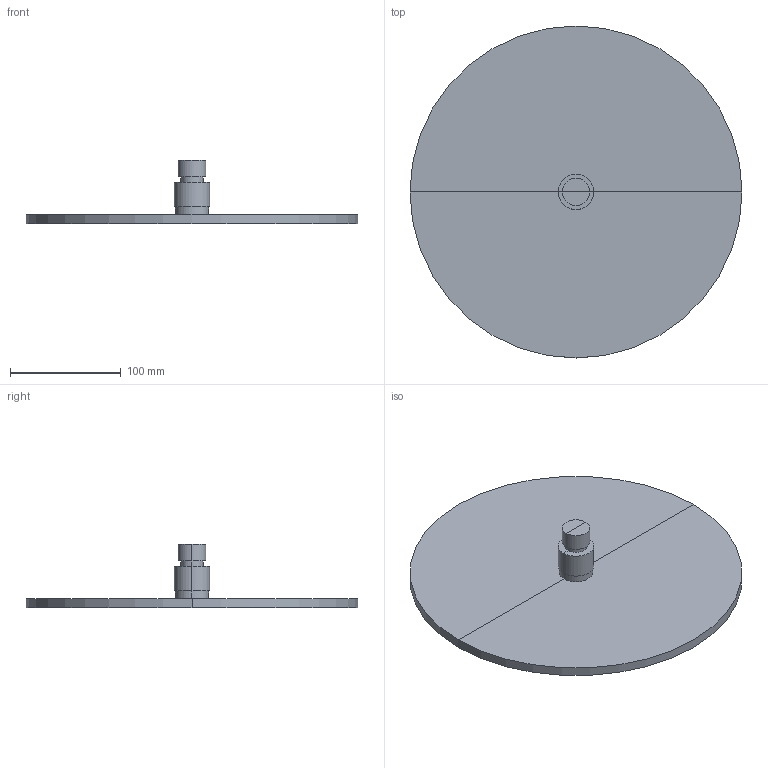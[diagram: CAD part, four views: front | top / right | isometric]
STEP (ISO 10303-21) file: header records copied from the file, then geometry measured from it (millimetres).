
FILE_DESCRIPTION(('FreeCAD Model'),'2;1');
FILE_NAME('Open CASCADE Shape Model','2024-07-23T17:18:20',('Author'),( ''),'Open CASCADE STEP processor 7.6','FreeCAD','Unknown');
FILE_SCHEMA(('AUTOMOTIVE_DESIGN { 1 0 10303 214 1 1 1 1 }'));
Length unit declared in the file: millimetre
Products named in the file (3): TopLevelAssembly; Obrót profilu; Obrót profilu001
Assembly tree (2 placements, depth 2):
  TopLevelAssembly
    Obrót profilu
    Obrót profilu001
Bounding box: 300 x 300 x 57.6 mm (x, y, z)
Volume: 625434.5 mm3; surface area: 155629.8 mm2
Topology: 2 solids, 2 shells, 24 faces, 40 edges, 20 vertices
Faces by surface type: plane 14, cylinder 10
Entity records: 610 total; most frequent: DIRECTION 114, CARTESIAN_POINT 87, ORIENTED_EDGE 80, AXIS2_PLACEMENT_3D 47, EDGE_CURVE 40, ADVANCED_FACE 24, FACE_BOUND 24, EDGE_LOOP 24
